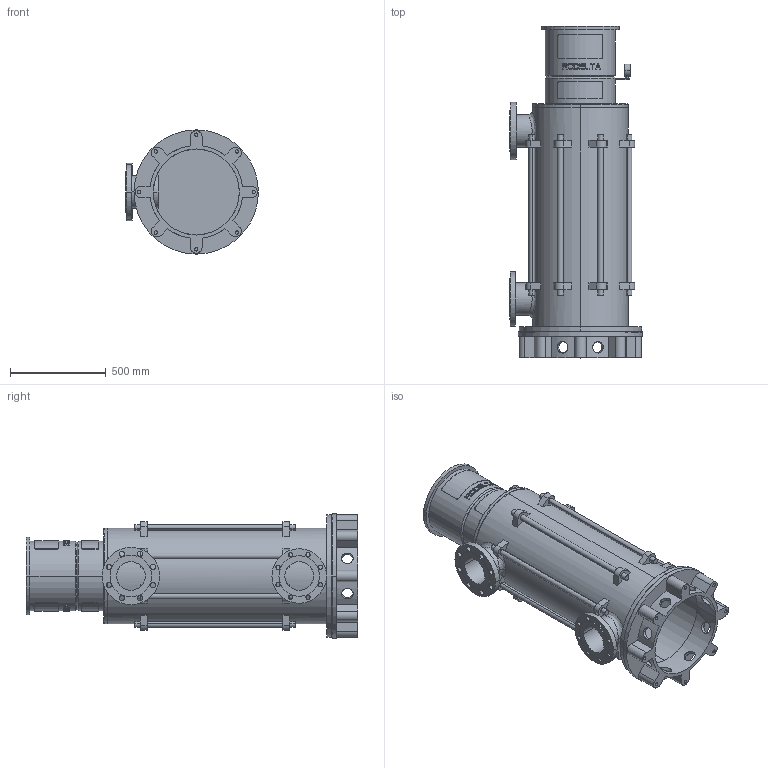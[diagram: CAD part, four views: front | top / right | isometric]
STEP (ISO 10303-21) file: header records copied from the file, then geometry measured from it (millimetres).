
FILE_DESCRIPTION((''),'2;1');
FILE_NAME('LS6_5TR_0GR_PN25_TOT_30KW','2025-10-24T12:06:09',('Lyritlocal'),(''),'CREO PARAMETRIC BY PTC INC, 2022014','CREO PARAMETRIC BY PTC INC, 2022014','');
FILE_SCHEMA(('CONFIG_CONTROL_DESIGN'));
Length unit declared in the file: millimetre
Products named in the file (1): LS6_5TR_0GR_PN25_TOT_30KW
Bounding box: 695 x 1735 x 650 mm (x, y, z)
Volume: 52844173.8 mm3; surface area: 7339795.1 mm2
Topology: 3 solids, 11 shells, 732 faces, 1889 edges, 1258 vertices
Faces by surface type: plane 438, cylinder 274, cone 12, bspline 8
Entity records: 24200 total; most frequent: CARTESIAN_POINT 6380, ORIENTED_EDGE 3746, DIRECTION 3535, EDGE_CURVE 1889, AXIS2_PLACEMENT_3D 1341, VERTEX_POINT 1258, EDGE_LOOP 895, VECTOR 853
